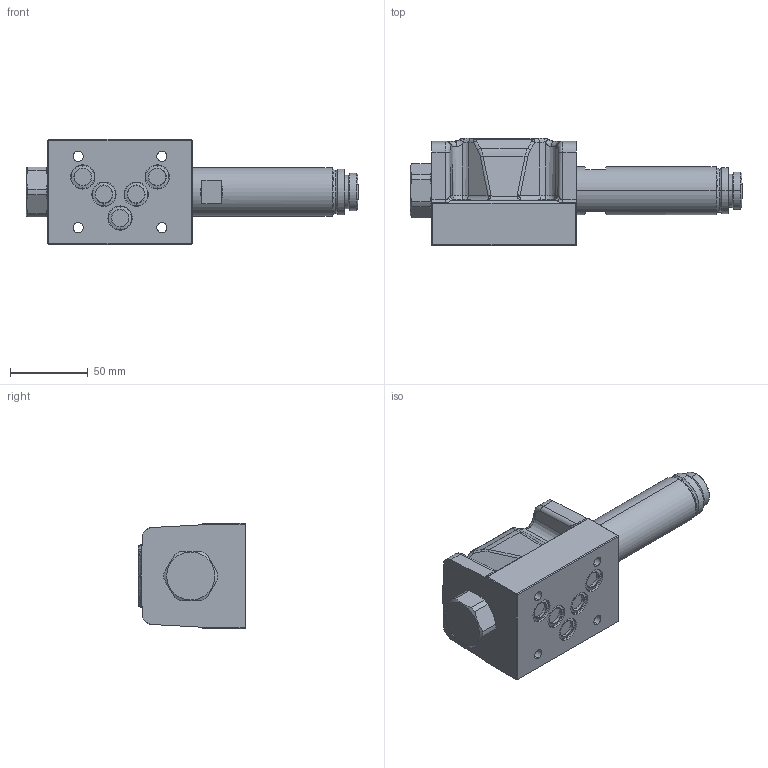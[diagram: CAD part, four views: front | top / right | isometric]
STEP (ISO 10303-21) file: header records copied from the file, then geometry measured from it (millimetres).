
FILE_DESCRIPTION (( 'STEP AP214' ), '1' );
FILE_NAME ('WDMFA10-4_2-Bside.STEP', '2015-10-22T06:59:37', ( '' ), ( '' ), 'SwSTEP 2.0', 'SolidWorks 2014', '' );
FILE_SCHEMA (( 'AUTOMOTIVE_DESIGN' ));
Length unit declared in the file: millimetre
Products named in the file (2): WDMFA10-4_2-Bside
Bounding box: 214.2 x 69.5 x 68 mm (x, y, z)
Volume: 442979.1 mm3; surface area: 50299.2 mm2
Topology: 1 solids, 1 shells, 460 faces, 1081 edges, 646 vertices
Faces by surface type: cylinder 157, plane 133, bspline 110, cone 37, torus 23
Entity records: 21958 total; most frequent: CARTESIAN_POINT 7346, ORIENTED_EDGE 2142, DIRECTION 1770, EDGE_CURVE 1071, AXIS2_PLACEMENT_3D 661, VERTEX_POINT 646, EDGE_LOOP 501, UNCERTAINTY_MEASURE_WITH_UNIT 462
